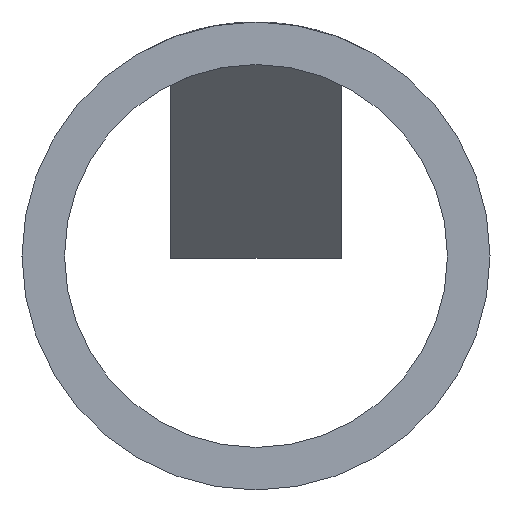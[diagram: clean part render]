
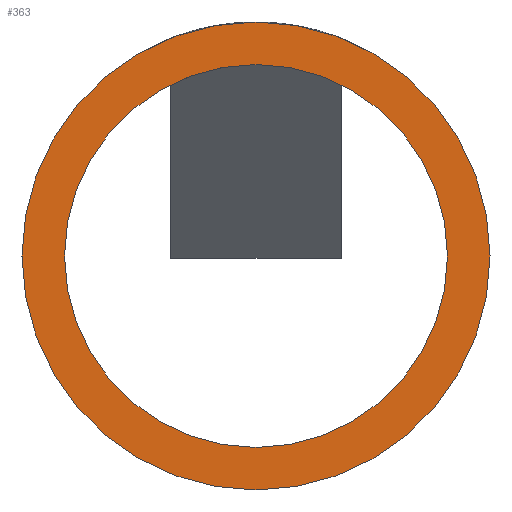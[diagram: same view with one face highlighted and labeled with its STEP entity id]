
A CAD part, front view. The second image highlights one B-rep face of the part: STEP entity #363.
In plain terms, the highlighted planar face has unit normal (0, -1, 0).
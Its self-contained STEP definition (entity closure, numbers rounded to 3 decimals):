
#7 = CIRCLE ( 'NONE', #126, 5.5 ) ;
#18 = FACE_BOUND ( 'NONE', #379, .T. ) ;
#35 = FACE_OUTER_BOUND ( 'NONE', #382, .T. ) ;
#54 = CIRCLE ( 'NONE', #83, 4.5 ) ;
#77 = EDGE_CURVE ( 'NONE', #328, #332, #466, .T. ) ;
#82 = AXIS2_PLACEMENT_3D ( 'NONE', #147, #143, #142 ) ;
#83 = AXIS2_PLACEMENT_3D ( 'NONE', #243, #231, #229 ) ;
#100 = EDGE_CURVE ( 'NONE', #321, #320, #447, .T. ) ;
#102 = AXIS2_PLACEMENT_3D ( 'NONE', #291, #290, #289 ) ;
#108 = AXIS2_PLACEMENT_3D ( 'NONE', #268, #266, #265 ) ;
#109 = EDGE_CURVE ( 'NONE', #320, #321, #7, .T. ) ;
#125 = EDGE_CURVE ( 'NONE', #332, #328, #54, .T. ) ;
#126 = AXIS2_PLACEMENT_3D ( 'NONE', #254, #251, #250 ) ;
#142 = DIRECTION ( 'NONE',  ( -1., 0., 0. ) ) ;
#143 = DIRECTION ( 'NONE',  ( 0., -1., 0. ) ) ;
#146 = PLANE ( 'NONE',  #82 ) ;
#147 = CARTESIAN_POINT ( 'NONE',  ( 0., 0., 0. ) ) ;
#187 = CARTESIAN_POINT ( 'NONE',  ( -4.5, 0., 0. ) ) ;
#190 = CARTESIAN_POINT ( 'NONE',  ( 4.5, 0., 0. ) ) ;
#195 = CARTESIAN_POINT ( 'NONE',  ( 5.5, 0., 0. ) ) ;
#196 = CARTESIAN_POINT ( 'NONE',  ( -5.5, 0., 0. ) ) ;
#229 = DIRECTION ( 'NONE',  ( -1., 0., 0. ) ) ;
#231 = DIRECTION ( 'NONE',  ( 0., -1., 0. ) ) ;
#243 = CARTESIAN_POINT ( 'NONE',  ( 0., 0., 0. ) ) ;
#250 = DIRECTION ( 'NONE',  ( -1., 0., 0. ) ) ;
#251 = DIRECTION ( 'NONE',  ( 0., -1., 0. ) ) ;
#254 = CARTESIAN_POINT ( 'NONE',  ( 0., 0., 0. ) ) ;
#265 = DIRECTION ( 'NONE',  ( -1., 0., 0. ) ) ;
#266 = DIRECTION ( 'NONE',  ( 0., -1., 0. ) ) ;
#268 = CARTESIAN_POINT ( 'NONE',  ( 0., 0., 0. ) ) ;
#289 = DIRECTION ( 'NONE',  ( -1., 0., 0. ) ) ;
#290 = DIRECTION ( 'NONE',  ( 0., -1., 0. ) ) ;
#291 = CARTESIAN_POINT ( 'NONE',  ( 0., 0., 0. ) ) ;
#320 = VERTEX_POINT ( 'NONE', #196 ) ;
#321 = VERTEX_POINT ( 'NONE', #195 ) ;
#328 = VERTEX_POINT ( 'NONE', #190 ) ;
#332 = VERTEX_POINT ( 'NONE', #187 ) ;
#363 = ADVANCED_FACE ( 'NONE', ( #35, #18 ), #146, .T. ) ;
#373 = ORIENTED_EDGE ( 'NONE', *, *, #100, .T. ) ;
#379 = EDGE_LOOP ( 'NONE', ( #403, #404 ) ) ;
#382 = EDGE_LOOP ( 'NONE', ( #373, #390 ) ) ;
#390 = ORIENTED_EDGE ( 'NONE', *, *, #109, .T. ) ;
#403 = ORIENTED_EDGE ( 'NONE', *, *, #77, .F. ) ;
#404 = ORIENTED_EDGE ( 'NONE', *, *, #125, .F. ) ;
#447 = CIRCLE ( 'NONE', #108, 5.5 ) ;
#466 = CIRCLE ( 'NONE', #102, 4.5 ) ;
